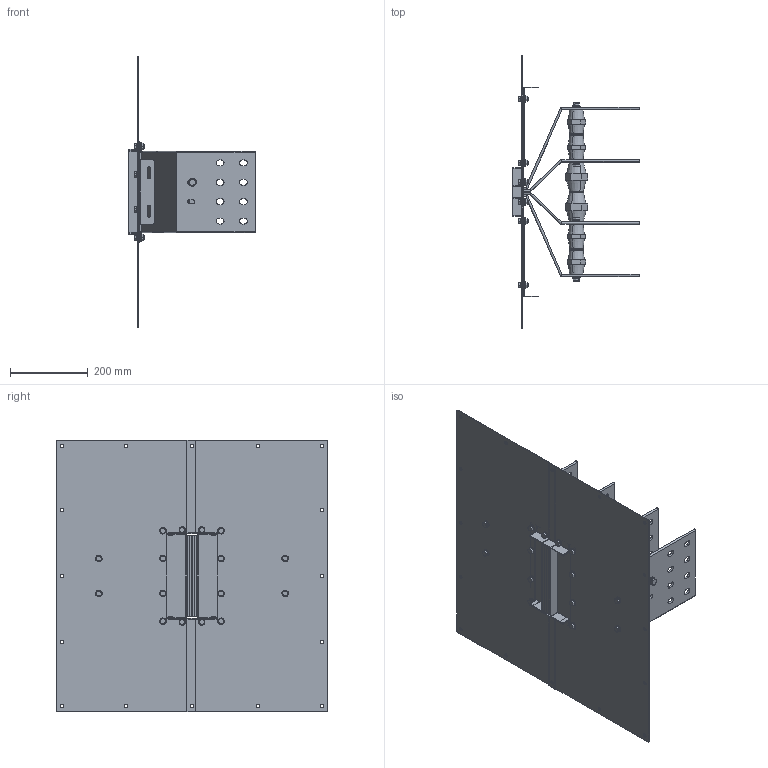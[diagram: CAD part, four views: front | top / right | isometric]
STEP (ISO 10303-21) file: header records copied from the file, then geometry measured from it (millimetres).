
FILE_DESCRIPTION(('CATIA V5 STEP','CAx-IF Rec.Pracs.--- Model Styling and Organization---1.5--- 2016-08-15','CAx-IF Rec.Pracs.---Supplemental Geometry---1.0---2011-11-01','CAx-IF Rec.Pracs.--- Composite Materials ---1.1---2010-07-15'),'2;1');
FILE_NAME('K:\COSCN 2011\32372311_RiduzioneSezioniBarre\03_Studio\__Modelli semplificati\XCP_UB semplificati per studi\XCP-HP_UB_4C_Pe_CRT_Assieme\Cu\XCP-HP_UB_4C_Pe_S_Assieme - 2500A Cu_CRT\XCP-HP_UB_4C_Pe_S_Assieme - 2500A Cu_CRT.stp','2025-05-12T12:00:10+00:00',('Utente Bticino'),('Bticino S.p.A.'),'CATIA Version 5-6 Release 2020 SP5','CATIA V5 STEP AP214 v2','none');
FILE_SCHEMA(('AUTOMOTIVE_DESIGN { 1 0 10303 214 1 1 1 1 }'));
Length unit declared in the file: millimetre
Products named in the file (19): XCP-HP_UB_4C_Pe_S_Assieme - 2500A Cu_CRT; XCP-HP_UB_4C_Pe_S_PaccoBarre_2500A Cu_CRT; XCP-HP_UB_4C_Pe_S_Lamiere_2500A Cu_CRT; Ass_M10x25.1; 00740025 M10x25 UNI5739; Rondella spac M10 UNI 1751; 00750005; 130006; 130184; 130006_1; 130184_1; 130006_2; 130006_3; 00750033 - RONDELLA PIANA 4.8 D.12 UNI 6592 ZB; 00750033 - RONDELLA PIANA 4.8 D.12 UNI 6592 ZB_1; 00750033 - RONDELLA PIANA 4.8 D.12 UNI 6592 ZB_2; Ass Vite+dado M8; Steel hex flanged SCREW M12x16; Steel hex flanged NUT M8
Assembly tree (38 placements, depth 3):
  XCP-HP_UB_4C_Pe_S_Assieme - 2500A Cu_CRT
    XCP-HP_UB_4C_Pe_S_PaccoBarre_2500A Cu_CRT
    XCP-HP_UB_4C_Pe_S_Lamiere_2500A Cu_CRT
    Ass_M10x25.1  x6
      00740025 M10x25 UNI5739
      Rondella spac M10 UNI 1751
      00750005
    130006
    130184
    130006_1
    130184_1
    130006_2
    130006_3
    00750033 - RONDELLA PIANA 4.8 D.12 UNI 6592 ZB
    00750033 - RONDELLA PIANA 4.8 D.12 UNI 6592 ZB_1
    00750033 - RONDELLA PIANA 4.8 D.12 UNI 6592 ZB_2
    Ass Vite+dado M8  x16
      Steel hex flanged SCREW M12x16
      Steel hex flanged NUT M8
Bounding box: 325 x 700 x 700 mm (x, y, z)
Volume: 3729050.9 mm3; surface area: 2141647.4 mm2
Topology: 73 solids, 73 shells, 1716 faces, 4144 edges, 2612 vertices
Faces by surface type: plane 760, cylinder 516, cone 200, bspline 176, torus 64
Entity records: 25609 total; most frequent: CARTESIAN_POINT 5538, ORIENTED_EDGE 4280, DIRECTION 3366, EDGE_CURVE 2140, AXIS2_PLACEMENT_3D 1458, VERTEX_POINT 1372, VECTOR 1248, LINE 1248
